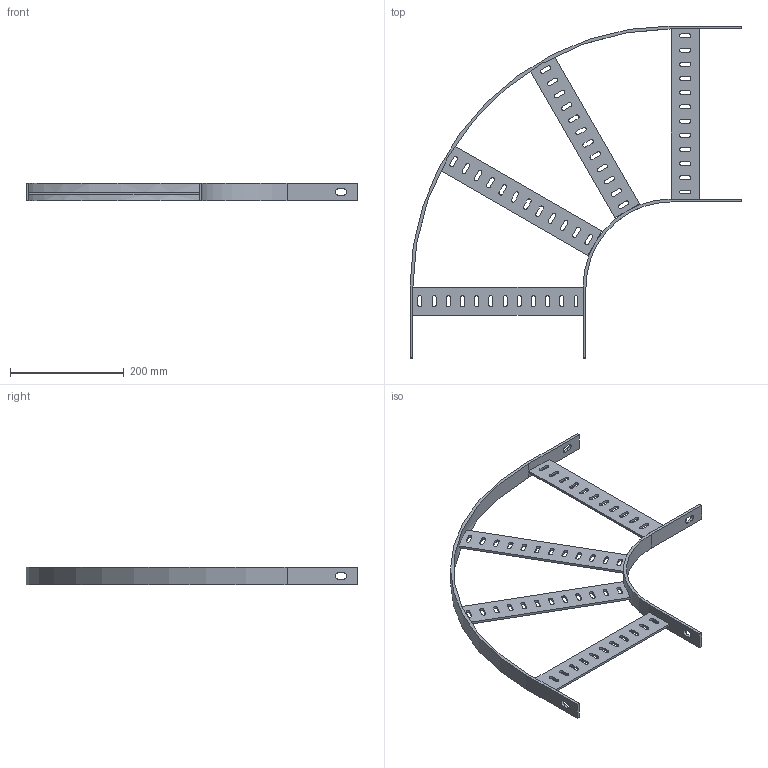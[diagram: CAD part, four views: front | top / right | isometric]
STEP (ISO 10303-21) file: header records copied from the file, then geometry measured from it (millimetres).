
FILE_DESCRIPTION(('Creo Elements/Direct Modeling STEP Export'),'2;1');
FILE_NAME('//pserver/office/EK/ME10-3D/3D-output/SLB 300F.stp','2020-03-10T15:04:19',(''),(''),'PTC Creo Elements/Direct Modeling STEP processor for AP214 (Solid Model)','PTC Creo Elements/Direct Modeling 19.0C 15-Aug-2015 (C) Parametric Technology GmbH','');
FILE_SCHEMA(('AUTOMOTIVE_DESIGN { 1 0 10303 214 1 1 1 1 }'));
Length unit declared in the file: millimetre
Products named in the file (1): SLB_300F
Bounding box: 585 x 585 x 30 mm (x, y, z)
Surface area: 227698.7 mm2 (no closed solid volume)
Topology: 0 solids, 1 shells, 248 faces, 736 edges, 488 vertices
Faces by surface type: plane 140, cylinder 108
Entity records: 8528 total; most frequent: ORIENTED_EDGE 1480, CARTESIAN_POINT 1459, DIRECTION 1440, EDGE_CURVE 734, VECTOR 502, LINE 502, VERTEX_POINT 488, AXIS2_PLACEMENT_3D 469
